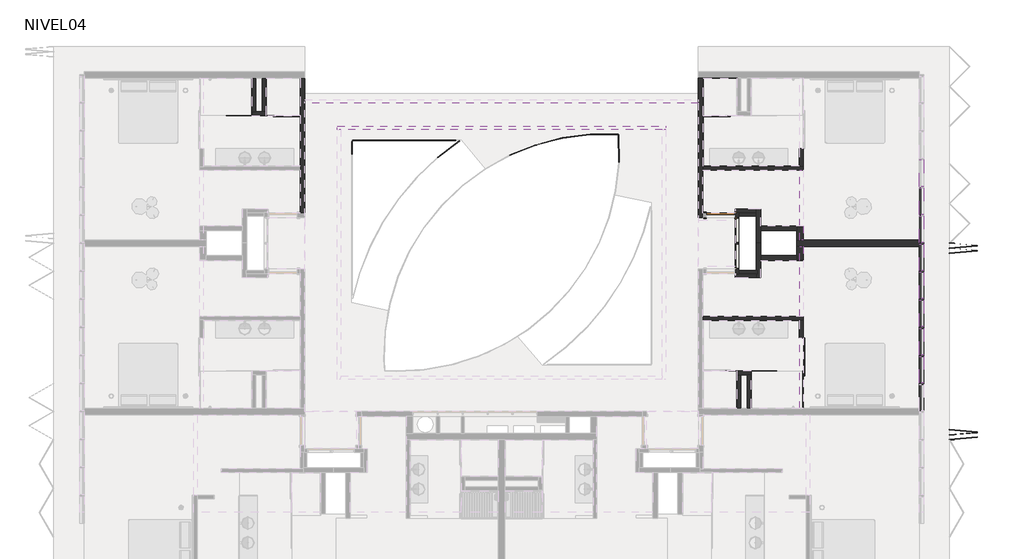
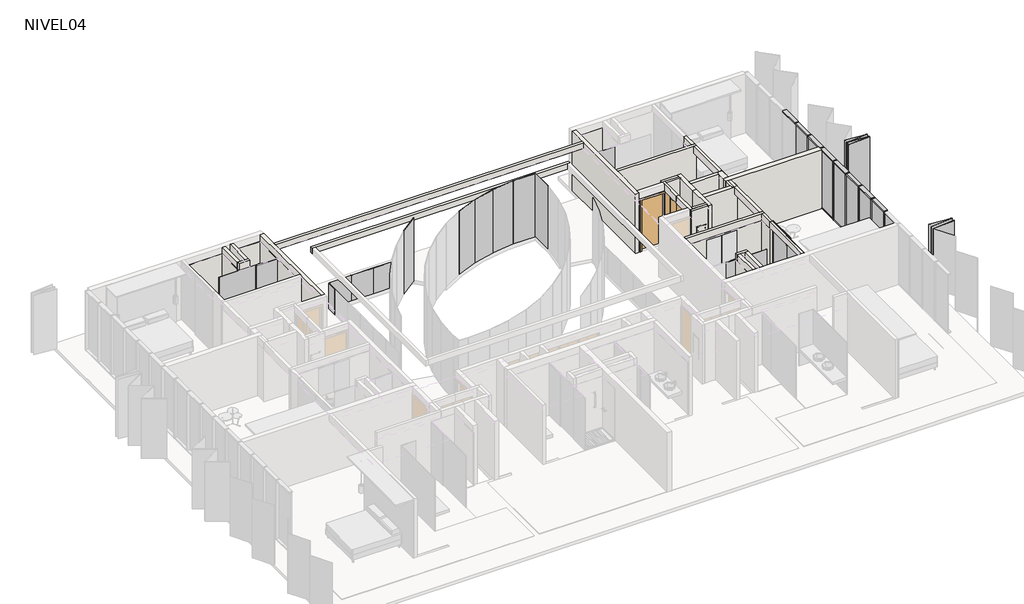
# One storey, part 6 of 8: 43 walls, 26 plates, 20 members, 3 doors.
"""IFC4 building model written with IfcOpenShell, lengths in millimetres."""

from ifc_helpers import new_model, si_unit, frame, origin, place, context, project, spatial, polyline, outline, extrude, faceted_brep, transform, mapped, element, save
from components import m_single_flush_910x_224_d199ccfa, puerta_closet_shaft_82_5_x_224cm_10222c01, puerta_closet_shaft_82_5_x_224cm_6ba6ac82, rectangular_mullion_50_x_150mm_324a6438, rectangular_mullion_50_x_150mm_33c2bde1, folding_hd_folding_hd_85_1d048bdd, panel_corredera_cr_panel_corredera_1cb9417a, panel_corredera_cr_panel_corredera_99e605cf, panel_corredera_cr_panel_corredera_8db39db7, system_panel_5ccbd7a3, system_panel_34dc83f9, system_panel_bb99d6db, system_panel_8f9a12f6, system_panel_d16f8cfc, system_panel_cr_shower_402713e2, system_panel_cr_shower_685ec66b, system_panel_glazed_6ccc6dc1

model = new_model("IFC4")

# Units and contexts
model_context = context("Model", 3, world=origin())
ifc_project = project(units=[si_unit("LENGTHUNIT", "METRE", prefix="MILLI")], contexts=[model_context])

# Site, building, storey
site = spatial("IfcSite", under=ifc_project)
building = spatial("IfcBuilding", under=site)
storey = spatial("IfcBuildingStorey", under=building, Name="NIVEL04", Elevation=7940.0)

# Doors
placement = place(None, origin())
m_single_flush_910x_224_shape = m_single_flush_910x_224_d199ccfa(model_context)
element("IfcDoor", 1, ObjectType="M_Single-Flush : 910x 224", at=placement, inside=storey, context=model_context, shape_type="MappedRepresentation", body=[
    mapped(m_single_flush_910x_224_shape, transform((-176.0934748, 6033.9139241, 7940.0), x_axis=(-1.0, 0.0, 0.0), y_axis=(0.0, -1.0, 0.0), z_axis=(0.0, 0.0, 1.0))),
])
puerta_closet_shaft_82_5_x_224cm_shape = puerta_closet_shaft_82_5_x_224cm_10222c01(model_context)
element("IfcDoor", 2, ObjectType="PUERTA CLOSET SHAFT : 82.5 x 224cm", at=placement, inside=storey, context=model_context, shape_type="MappedRepresentation", body=[
    mapped(puerta_closet_shaft_82_5_x_224cm_shape, transform((361.4065252, 5862.9454949, 7940.0), x_axis=(0.0, 1.0, 0.0), y_axis=(-1.0, 0.0, 0.0), z_axis=(0.0, 0.0, 1.0))),
])
puerta_closet_shaft_82_5_x_224cm_2_shape = puerta_closet_shaft_82_5_x_224cm_6ba6ac82(model_context)
element("IfcDoor", 3, ObjectType="PUERTA CLOSET SHAFT : 82.5 x 224cm", at=placement, inside=storey, context=model_context, shape_type="MappedRepresentation", body=[
    mapped(puerta_closet_shaft_82_5_x_224cm_2_shape, transform((361.4065252, 4404.8823532, 7940.0), x_axis=(0.0, -1.0, 0.0), y_axis=(1.0, 0.0, 0.0), z_axis=(0.0, 0.0, 1.0))),
])

# Members
rectangular_mullion_50_x_150mm_shape = rectangular_mullion_50_x_150mm_324a6438(model_context)
element("IfcMember", 4, ObjectType="Rectangular Mullion : 50 x 150mm", at=placement, inside=storey, context=model_context, shape_type="MappedRepresentation", body=[
    mapped(rectangular_mullion_50_x_150mm_shape, transform((6266.4065252, 6958.9139237, 10490.0), x_axis=(0.0, 0.0, 1.0), y_axis=(-1.0, 0.0, 0.0), z_axis=(0.0, -1.0, 0.0))),
])
element("IfcMember", 5, ObjectType="Rectangular Mullion : 50 x 150mm", at=placement, inside=storey, context=model_context, shape_type="MappedRepresentation", body=[
    mapped(rectangular_mullion_50_x_150mm_shape, transform((6266.4065252, 6058.9139237, 10490.0), x_axis=(0.0, 0.0, 1.0), y_axis=(-1.0, 0.0, 0.0), z_axis=(0.0, -1.0, 0.0))),
])
element("IfcMember", 6, ObjectType="Rectangular Mullion : 50 x 150mm", at=placement, inside=storey, context=model_context, shape_type="MappedRepresentation", body=[
    mapped(rectangular_mullion_50_x_150mm_shape, transform((6266.4065252, 5158.9139237, 10490.0), x_axis=(0.0, 0.0, 1.0), y_axis=(-1.0, 0.0, 0.0), z_axis=(0.0, -1.0, 0.0))),
])
element("IfcMember", 7, ObjectType="Rectangular Mullion : 50 x 150mm", at=placement, inside=storey, context=model_context, shape_type="MappedRepresentation", body=[
    mapped(rectangular_mullion_50_x_150mm_shape, transform((6266.4065252, 4258.9139237, 10490.0), x_axis=(0.0, 0.0, 1.0), y_axis=(-1.0, 0.0, 0.0), z_axis=(0.0, -1.0, 0.0))),
])
element("IfcMember", 8, ObjectType="Rectangular Mullion : 50 x 150mm", at=placement, inside=storey, context=model_context, shape_type="MappedRepresentation", body=[
    mapped(rectangular_mullion_50_x_150mm_shape, transform((6266.4065252, 3358.9139237, 10490.0), x_axis=(0.0, 0.0, 1.0), y_axis=(-1.0, 0.0, 0.0), z_axis=(0.0, -1.0, 0.0))),
])
element("IfcMember", 9, ObjectType="Rectangular Mullion : 50 x 150mm", at=placement, inside=storey, context=model_context, shape_type="MappedRepresentation", body=[
    mapped(rectangular_mullion_50_x_150mm_shape, transform((6266.4065252, 2458.9139237, 10490.0), x_axis=(0.0, 0.0, 1.0), y_axis=(-1.0, 0.0, 0.0), z_axis=(0.0, -1.0, 0.0))),
])
element("IfcMember", 10, ObjectType="Rectangular Mullion : 50 x 150mm", at=placement, inside=storey, context=model_context, shape_type="MappedRepresentation", body=[
    mapped(rectangular_mullion_50_x_150mm_shape, transform((6266.4065252, 1558.9139237, 10490.0), x_axis=(0.0, 0.0, 1.0), y_axis=(-1.0, 0.0, 0.0), z_axis=(0.0, -1.0, 0.0))),
])
element("IfcMember", 11, ObjectType="Rectangular Mullion : 50 x 150mm", at=placement, inside=storey, context=model_context, shape_type="MappedRepresentation", body=[
    mapped(rectangular_mullion_50_x_150mm_shape, transform((6266.4065252, 658.9139237, 10490.0), x_axis=(0.0, 0.0, 1.0), y_axis=(-1.0, 0.0, 0.0), z_axis=(0.0, -1.0, 0.0))),
])
element("IfcMember", 12, ObjectType="Rectangular Mullion : 50 x 150mm", at=placement, inside=storey, context=model_context, shape_type="MappedRepresentation", body=[
    mapped(rectangular_mullion_50_x_150mm_shape, transform((6266.4065252, 5108.9139237, 7920.0), x_axis=(0.0, 0.0, -1.0), y_axis=(-1.0, 0.0, 0.0), z_axis=(0.0, 1.0, 0.0))),
])
element("IfcMember", 13, ObjectType="Rectangular Mullion : 50 x 150mm", at=placement, inside=storey, context=model_context, shape_type="MappedRepresentation", body=[
    mapped(rectangular_mullion_50_x_150mm_shape, transform((6266.4065252, 4208.9139237, 7920.0), x_axis=(0.0, 0.0, -1.0), y_axis=(-1.0, 0.0, 0.0), z_axis=(0.0, 1.0, 0.0))),
])
element("IfcMember", 14, ObjectType="Rectangular Mullion : 50 x 150mm", at=placement, inside=storey, context=model_context, shape_type="MappedRepresentation", body=[
    mapped(rectangular_mullion_50_x_150mm_shape, transform((6266.4065252, 3308.9139237, 7920.0), x_axis=(0.0, 0.0, -1.0), y_axis=(-1.0, 0.0, 0.0), z_axis=(0.0, 1.0, 0.0))),
])
element("IfcMember", 15, ObjectType="Rectangular Mullion : 50 x 150mm", at=placement, inside=storey, context=model_context, shape_type="MappedRepresentation", body=[
    mapped(rectangular_mullion_50_x_150mm_shape, transform((6266.4065252, 2408.9139237, 7920.0), x_axis=(0.0, 0.0, -1.0), y_axis=(-1.0, 0.0, 0.0), z_axis=(0.0, 1.0, 0.0))),
])
element("IfcMember", 16, ObjectType="Rectangular Mullion : 50 x 150mm", at=placement, inside=storey, context=model_context, shape_type="MappedRepresentation", body=[
    mapped(rectangular_mullion_50_x_150mm_shape, transform((6266.4065252, 1508.9139237, 7920.0), x_axis=(0.0, 0.0, -1.0), y_axis=(-1.0, 0.0, 0.0), z_axis=(0.0, 1.0, 0.0))),
])
element("IfcMember", 17, ObjectType="Rectangular Mullion : 50 x 150mm", at=placement, inside=storey, context=model_context, shape_type="MappedRepresentation", body=[
    mapped(rectangular_mullion_50_x_150mm_shape, transform((6266.4065252, 608.9139237, 7920.0), x_axis=(0.0, 0.0, -1.0), y_axis=(-1.0, 0.0, 0.0), z_axis=(0.0, 1.0, 0.0))),
])
rectangular_mullion_50_x_150mm_2_shape = rectangular_mullion_50_x_150mm_33c2bde1(model_context)
element("IfcMember", 18, ObjectType="Rectangular Mullion : 50 x 150mm", at=placement, inside=storey, context=model_context, shape_type="MappedRepresentation", body=[
    mapped(rectangular_mullion_50_x_150mm_2_shape, transform((6266.4065252, 5133.9139237, 7920.0), x_axis=(0.0, -1.0, 0.0), y_axis=(-1.0, 0.0, 0.0), z_axis=(0.0, 0.0, -1.0))),
])
element("IfcMember", 19, ObjectType="Rectangular Mullion : 50 x 150mm", at=placement, inside=storey, context=model_context, shape_type="MappedRepresentation", body=[
    mapped(rectangular_mullion_50_x_150mm_2_shape, transform((6266.4065252, 4233.9139237, 7920.0), x_axis=(0.0, -1.0, 0.0), y_axis=(-1.0, 0.0, 0.0), z_axis=(0.0, 0.0, -1.0))),
])
element("IfcMember", 20, ObjectType="Rectangular Mullion : 50 x 150mm", at=placement, inside=storey, context=model_context, shape_type="MappedRepresentation", body=[
    mapped(rectangular_mullion_50_x_150mm_2_shape, transform((6266.4065252, 3333.9139237, 7920.0), x_axis=(0.0, -1.0, 0.0), y_axis=(-1.0, 0.0, 0.0), z_axis=(0.0, 0.0, -1.0))),
])
element("IfcMember", 21, ObjectType="Rectangular Mullion : 50 x 150mm", at=placement, inside=storey, context=model_context, shape_type="MappedRepresentation", body=[
    mapped(rectangular_mullion_50_x_150mm_2_shape, transform((6266.4065252, 2433.9139237, 7920.0), x_axis=(0.0, -1.0, 0.0), y_axis=(-1.0, 0.0, 0.0), z_axis=(0.0, 0.0, -1.0))),
])
element("IfcMember", 22, ObjectType="Rectangular Mullion : 50 x 150mm", at=placement, inside=storey, context=model_context, shape_type="MappedRepresentation", body=[
    mapped(rectangular_mullion_50_x_150mm_2_shape, transform((6266.4065252, 1533.9139237, 7920.0), x_axis=(0.0, -1.0, 0.0), y_axis=(-1.0, 0.0, 0.0), z_axis=(0.0, 0.0, -1.0))),
])
element("IfcMember", 23, ObjectType="Rectangular Mullion : 50 x 150mm", at=placement, inside=storey, context=model_context, shape_type="MappedRepresentation", body=[
    mapped(rectangular_mullion_50_x_150mm_2_shape, transform((6266.4065252, 633.9139237, 7920.0), x_axis=(0.0, -1.0, 0.0), y_axis=(-1.0, 0.0, 0.0), z_axis=(0.0, 0.0, -1.0))),
])

# Plates
folding_hd_folding_hd_85_shape = folding_hd_folding_hd_85_1d048bdd(model_context)
element("IfcPlate", 24, ObjectType="FOLDING HD : FOLDING HD 85", at=placement, inside=storey, context=model_context, shape_type="MappedRepresentation", body=[
    mapped(folding_hd_folding_hd_85_shape, transform((7166.4065252, 1983.9139241, 7920.0), x_axis=(0.0, -1.0, 0.0), y_axis=(1.0, 0.0, 0.0), z_axis=(0.0, 0.0, 1.0))),
])
panel_corredera_cr_panel_corredera_shape = panel_corredera_cr_panel_corredera_1cb9417a(model_context)
element("IfcPlate", 25, ObjectType="PANEL CORREDERA : CR_PANEL CORREDERA", at=placement, inside=storey, context=model_context, shape_type="MappedRepresentation", body=[
    mapped(panel_corredera_cr_panel_corredera_shape, transform((-372.2601415, 9233.9139241, 7940.0), x_axis=(1.0, 0.0, 0.0), y_axis=(0.0, 1.0, 0.0), z_axis=(0.0, 0.0, 1.0))),
])
panel_corredera_cr_panel_corredera_2_shape = panel_corredera_cr_panel_corredera_99e605cf(model_context)
element("IfcPlate", 26, ObjectType="PANEL CORREDERA : CR_PANEL CORREDERA", at=placement, inside=storey, context=model_context, shape_type="MappedRepresentation", body=[
    mapped(panel_corredera_cr_panel_corredera_2_shape, transform((-13994.9268082, 9233.9139241, 7940.0), x_axis=(-1.0, 0.0, 0.0), y_axis=(0.0, -1.0, 0.0), z_axis=(0.0, 0.0, 1.0))),
])
panel_corredera_cr_panel_corredera_3_shape = panel_corredera_cr_panel_corredera_8db39db7(model_context)
element("IfcPlate", 27, ObjectType="PANEL CORREDERA : CR_PANEL CORREDERA", at=placement, inside=storey, context=model_context, shape_type="MappedRepresentation", body=[
    mapped(panel_corredera_cr_panel_corredera_3_shape, transform((2481.4065252, 1563.9139241, 7940.0), x_axis=(0.0, -1.0, 0.0), y_axis=(1.0, 0.0, 0.0), z_axis=(0.0, 0.0, 1.0))),
])
system_panel_shape = system_panel_5ccbd7a3(model_context)
element("IfcPlate", 28, ObjectType="System Panel : CR-BARANDA", at=placement, inside=storey, context=model_context, shape_type="MappedRepresentation", body=[
    mapped(system_panel_shape, transform((-11507.3434747, 8433.9139241, 7940.0), x_axis=(1.0, 0.0, 0.0), y_axis=(0.0, 1.0, 0.0), z_axis=(0.0, 0.0, 1.0))),
])
element("IfcPlate", 29, ObjectType="System Panel : CR-BARANDA", at=placement, inside=storey, context=model_context, shape_type="MappedRepresentation", body=[
    mapped(system_panel_shape, transform((-10607.3434745, 8433.9139241, 7940.0), x_axis=(1.0, 0.0, 0.0), y_axis=(0.0, 1.0, 0.0), z_axis=(0.0, 0.0, 1.0))),
])
element("IfcPlate", 30, ObjectType="System Panel : CR-BARANDA", at=placement, inside=storey, context=model_context, shape_type="MappedRepresentation", body=[
    mapped(system_panel_shape, transform((-9707.3434745, 8433.9139241, 7940.0), x_axis=(1.0, 0.0, 0.0), y_axis=(0.0, 1.0, 0.0), z_axis=(0.0, 0.0, 1.0))),
])
system_panel_2_shape = system_panel_34dc83f9(model_context)
element("IfcPlate", 31, ObjectType="System Panel : CR-BARANDA", at=placement, inside=storey, context=model_context, shape_type="MappedRepresentation", body=[
    mapped(system_panel_2_shape, transform((-8954.8434747, 8433.9139241, 7940.0), x_axis=(1.0, 0.0, 0.0), y_axis=(0.0, 1.0, 0.0), z_axis=(0.0, 0.0, 1.0))),
])
system_panel_3_shape = system_panel_bb99d6db(model_context)
element("IfcPlate", 32, ObjectType="System Panel : CR-BARANDA", at=placement, inside=storey, context=model_context, shape_type="MappedRepresentation", body=[
    mapped(system_panel_3_shape, transform((-11983.5934748, 8189.0707631, 7940.0), x_axis=(0.0, 1.0, 0.0), y_axis=(-1.0, 0.0, 0.0), z_axis=(0.0, 0.0, 1.0))),
])
system_panel_4_shape = system_panel_8f9a12f6(model_context)
element("IfcPlate", 33, ObjectType="System Panel : CR-BARANDA", at=placement, inside=storey, context=model_context, shape_type="MappedRepresentation", body=[
    mapped(system_panel_4_shape, transform((-3889.1158289, 8621.3139577, 7940.0), x_axis=(-0.9999985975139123, 0.0016748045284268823, 0.0), y_axis=(-0.0016748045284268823, -0.9999985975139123, 0.0), z_axis=(0.0, 0.0, 1.0))),
])
system_panel_5_shape = system_panel_d16f8cfc(model_context)
element("IfcPlate", 34, ObjectType="System Panel : CR-BARANDA", at=placement, inside=storey, context=model_context, shape_type="MappedRepresentation", body=[
    mapped(system_panel_5_shape, transform((-4785.5416487, 8565.4687941, 7940.0), x_axis=(-0.9920587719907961, -0.12577516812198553, 0.0), y_axis=(0.12577516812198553, -0.9920587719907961, 0.0), z_axis=(0.0, 0.0, 1.0))),
])
element("IfcPlate", 35, ObjectType="System Panel : CR-BARANDA", at=placement, inside=storey, context=model_context, shape_type="MappedRepresentation", body=[
    mapped(system_panel_5_shape, transform((-5667.541953, 8395.8415861, 7940.0), x_axis=(-0.9679419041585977, -0.2511741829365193, 0.0), y_axis=(0.2511741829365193, -0.9679419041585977, 0.0), z_axis=(0.0, 0.0, 1.0))),
])
element("IfcPlate", 36, ObjectType="System Panel : CR-BARANDA", at=placement, inside=storey, context=model_context, shape_type="MappedRepresentation", body=[
    mapped(system_panel_5_shape, transform((-6520.7343753, 8115.1983662, 7940.0), x_axis=(-0.9280412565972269, -0.37247741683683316, 0.0), y_axis=(0.37247741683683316, -0.9280412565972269, 0.0), z_axis=(0.0, 0.0, 1.0))),
])
element("IfcPlate", 37, ObjectType="System Panel : CR-BARANDA", at=placement, inside=storey, context=model_context, shape_type="MappedRepresentation", body=[
    mapped(system_panel_4_shape, transform((-8888.7580194, 8141.1767332, 7940.0), x_axis=(-0.7957364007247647, -0.6056431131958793, 0.0), y_axis=(0.6056431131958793, -0.7957364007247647, 0.0), z_axis=(0.0, 0.0, 1.0))),
])
element("IfcPlate", 38, ObjectType="System Panel : CR-BARANDA", at=placement, inside=storey, context=model_context, shape_type="MappedRepresentation", body=[
    mapped(system_panel_4_shape, transform((-3433.3235969, 8170.5975795, 7940.0), x_axis=(0.012873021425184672, -0.9999171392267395, 0.0), y_axis=(0.9999171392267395, 0.012873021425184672, 0.0), z_axis=(0.0, 0.0, 1.0))),
])
system_panel_cr_shower_shape = system_panel_cr_shower_402713e2(model_context)
element("IfcPlate", 39, ObjectType="System Panel : CR-SHOWER", at=placement, inside=storey, context=model_context, shape_type="MappedRepresentation", body=[
    mapped(system_panel_cr_shower_shape, transform((-15178.9268082, 9233.9139241, 7940.0), x_axis=(1.0, 0.0, 0.0), y_axis=(0.0, 1.0, 0.0), z_axis=(0.0, 0.0, 1.0))),
])
element("IfcPlate", 40, ObjectType="System Panel : CR-SHOWER", at=placement, inside=storey, context=model_context, shape_type="MappedRepresentation", body=[
    mapped(system_panel_cr_shower_shape, transform((811.7398585, 1033.9139241, 7940.0), x_axis=(-1.0, 0.0, 0.0), y_axis=(0.0, -1.0, 0.0), z_axis=(0.0, 0.0, 1.0))),
])
system_panel_cr_shower_2_shape = system_panel_cr_shower_685ec66b(model_context)
element("IfcPlate", 41, ObjectType="System Panel : CR-SHOWER", at=placement, inside=storey, context=model_context, shape_type="MappedRepresentation", body=[
    mapped(system_panel_cr_shower_2_shape, transform((2481.4065252, 433.9139241, 7940.0), x_axis=(0.0, -1.0, 0.0), y_axis=(1.0, 0.0, 0.0), z_axis=(0.0, 0.0, 1.0))),
])
system_panel_glazed_shape = system_panel_glazed_6ccc6dc1(model_context)
element("IfcPlate", 42, ObjectType="System Panel : Glazed", at=placement, inside=storey, context=model_context, shape_type="MappedRepresentation", body=[
    mapped(system_panel_glazed_shape, transform((6266.4065252, 6483.9139237, 7970.0), x_axis=(0.0, -1.0, 0.0), y_axis=(1.0, 0.0, 0.0), z_axis=(0.0, 0.0, 1.0))),
])
element("IfcPlate", 43, ObjectType="System Panel : Glazed", at=placement, inside=storey, context=model_context, shape_type="MappedRepresentation", body=[
    mapped(system_panel_glazed_shape, transform((6266.4065252, 5583.9139237, 7970.0), x_axis=(0.0, -1.0, 0.0), y_axis=(1.0, 0.0, 0.0), z_axis=(0.0, 0.0, 1.0))),
])
element("IfcPlate", 44, ObjectType="System Panel : Glazed", at=placement, inside=storey, context=model_context, shape_type="MappedRepresentation", body=[
    mapped(system_panel_glazed_shape, transform((6266.4065252, 4683.9139237, 7970.0), x_axis=(0.0, -1.0, 0.0), y_axis=(1.0, 0.0, 0.0), z_axis=(0.0, 0.0, 1.0))),
])
element("IfcPlate", 45, ObjectType="System Panel : Glazed", at=placement, inside=storey, context=model_context, shape_type="MappedRepresentation", body=[
    mapped(system_panel_glazed_shape, transform((6266.4065252, 3783.9139237, 7970.0), x_axis=(0.0, -1.0, 0.0), y_axis=(1.0, 0.0, 0.0), z_axis=(0.0, 0.0, 1.0))),
])
element("IfcPlate", 46, ObjectType="System Panel : Glazed", at=placement, inside=storey, context=model_context, shape_type="MappedRepresentation", body=[
    mapped(system_panel_glazed_shape, transform((6266.4065252, 2883.9139237, 7970.0), x_axis=(0.0, -1.0, 0.0), y_axis=(1.0, 0.0, 0.0), z_axis=(0.0, 0.0, 1.0))),
])
element("IfcPlate", 47, ObjectType="System Panel : Glazed", at=placement, inside=storey, context=model_context, shape_type="MappedRepresentation", body=[
    mapped(system_panel_glazed_shape, transform((6266.4065252, 1983.9139237, 7970.0), x_axis=(0.0, -1.0, 0.0), y_axis=(1.0, 0.0, 0.0), z_axis=(0.0, 0.0, 1.0))),
])
element("IfcPlate", 48, ObjectType="System Panel : Glazed", at=placement, inside=storey, context=model_context, shape_type="MappedRepresentation", body=[
    mapped(system_panel_glazed_shape, transform((6266.4065252, 1083.9139237, 7970.0), x_axis=(0.0, -1.0, 0.0), y_axis=(1.0, 0.0, 0.0), z_axis=(0.0, 0.0, 1.0))),
])
element("IfcPlate", 49, ObjectType="System Panel : Glazed", at=placement, inside=storey, context=model_context, shape_type="MappedRepresentation", body=[
    mapped(system_panel_glazed_shape, transform((6266.4065252, 183.9139237, 7970.0), x_axis=(0.0, -1.0, 0.0), y_axis=(1.0, 0.0, 0.0), z_axis=(0.0, 0.0, 1.0))),
])

# Walls
element("IfcWall", 50, ObjectType="SCV.TI.A.120.120.122.46.2", at=placement, inside=storey, context=model_context, shape_type="SweptSolid", body=[
    extrude(outline(polyline([(-15173.5934748, 9353.9139241), (-15173.5934748, 10433.9139241), (-15053.5934748, 10433.9139241), (-15053.5934748, 9353.9139241), (-15173.5934748, 9353.9139241)])), frame((0.0, 0.0, 7920.0), z_axis=(0.0, 0.0, 1.0), x_axis=(1.0, 0.0, 0.0)), (0.0, 0.0, 1.0), 2570.0),
])
element("IfcWall", 51, ObjectType="SCV.TI.A.120.120.122.46.2", at=placement, inside=storey, context=model_context, shape_type="Brep", body=[
    faceted_brep([(-15173.5934748, 9233.9139241, 7920.0), (-14733.5934748, 9233.9139241, 7920.0), (-14733.5934748, 9233.9139241, 10490.0), (-15173.5934748, 9233.9139241, 10490.0), (-15173.5934748, 9353.9139241, 7920.0), (-15173.5934748, 9353.9139241, 10490.0), (-15053.5934748, 9353.9139241, 10490.0), (-14853.5934748, 9353.9139241, 10490.0), (-14733.5934748, 9353.9139241, 10490.0), (-14733.5934748, 9353.9139241, 7920.0), (-14853.5934748, 9353.9139241, 7920.0), (-15053.5934748, 9353.9139241, 7920.0)], [[[0, 1, 2, 3]], [[4, 5, 6, 7, 8, 9, 10, 11]], [[1, 0, 4, 11, 10, 9]], [[3, 2, 8, 7, 6, 5]], [[2, 1, 9, 8]], [[0, 3, 5, 4]]]),
])
element("IfcWall", 52, ObjectType="SCV.TI.A.120.120.122.46.2", at=placement, inside=storey, context=model_context, shape_type="SweptSolid", body=[
    extrude(outline(polyline([(-14733.5934748, 10433.9139241), (-14733.5934748, 9353.9139241), (-14853.5934748, 9353.9139241), (-14853.5934748, 10433.9139241), (-14733.5934748, 10433.9139241)])), frame((0.0, 0.0, 7920.0), z_axis=(0.0, 0.0, 1.0), x_axis=(1.0, 0.0, 0.0)), (0.0, 0.0, 1.0), 2570.0),
])
element("IfcWall", 53, ObjectType="REV-PORCELANATO_60*60", at=placement, inside=storey, context=model_context, shape_type="Brep", body=[
    faceted_brep([(-13633.5934748, 7603.9139241, 7960.0), (-13633.5934748, 10433.9139241, 7960.0), (-13633.5934748, 10433.9139241, 10200.0), (-13633.5934748, 7603.9139241, 10200.0), (-13643.5934748, 7603.9139241, 7960.0), (-13643.5934748, 7603.9139241, 10200.0), (-13643.5934748, 10423.9139241, 10200.0), (-13643.5934748, 10433.9139241, 10200.0), (-13643.5934748, 10433.9139241, 7960.0), (-13643.5934748, 10423.9139241, 7960.0)], [[[0, 1, 2, 3]], [[4, 5, 6, 7, 8, 9]], [[1, 0, 4, 9, 8]], [[3, 2, 7, 6, 5]], [[2, 1, 8, 7]], [[0, 3, 5, 4]]]),
])
element("IfcWall", 54, ObjectType="REV-PORCELANATO_60*60", at=placement, inside=storey, context=model_context, shape_type="Brep", body=[
    faceted_brep([(-13643.5934748, 10433.9139241, 7960.0), (-14733.5934748, 10433.9139241, 7960.0), (-14733.5934748, 10433.9139241, 10200.0), (-13643.5934748, 10433.9139241, 10200.0), (-13643.5934748, 10423.9139241, 7960.0), (-13643.5934748, 10423.9139241, 10200.0), (-14723.5934748, 10423.9139241, 10200.0), (-14733.5934748, 10423.9139241, 10200.0), (-14733.5934748, 10423.9139241, 7960.0), (-14723.5934748, 10423.9139241, 7960.0)], [[[0, 1, 2, 3]], [[4, 5, 6, 7, 8, 9]], [[1, 0, 4, 9, 8]], [[3, 2, 7, 6, 5]], [[2, 1, 8, 7]], [[0, 3, 5, 4]]]),
])
element("IfcWall", 55, ObjectType="REV-PORCELANATO_60*60", at=placement, inside=storey, context=model_context, shape_type="SweptSolid", body=[
    extrude(outline(polyline([(-14723.5934748, 10423.9139241), (-14723.5934748, 9233.9139241), (-14733.5934748, 9233.9139241), (-14733.5934748, 10423.9139241), (-14723.5934748, 10423.9139241)])), frame((0.0, 0.0, 7960.0), z_axis=(0.0, 0.0, 1.0), x_axis=(1.0, 0.0, 0.0)), (0.0, 0.0, 1.0), 2240.0),
])
element("IfcWall", 56, ObjectType="REV-PORCELANATO_60*60", at=placement, inside=storey, context=model_context, shape_type="Brep", body=[
    faceted_brep([(-15173.5934748, 9233.9139241, 7940.0), (-15173.5934748, 10433.9139241, 7940.0), (-15173.5934748, 10433.9139241, 10200.0), (-15173.5934748, 9233.9139241, 10200.0), (-15183.5934748, 9233.9139241, 7940.0), (-15183.5934748, 9233.9139241, 10200.0), (-15183.5934748, 10423.9139241, 10200.0), (-15183.5934748, 10433.9139241, 10200.0), (-15183.5934748, 10433.9139241, 7940.0), (-15183.5934748, 10423.9139241, 7940.0)], [[[0, 1, 2, 3]], [[4, 5, 6, 7, 8, 9]], [[1, 0, 4, 9, 8]], [[3, 2, 7, 6, 5]], [[0, 3, 5, 4]], [[2, 1, 8, 7]]]),
])
element("IfcWall", 57, ObjectType="REV-PORCELANATO_60*60", at=placement, inside=storey, context=model_context, shape_type="SweptSolid", body=[
    extrude(outline(polyline([(-16793.5934748, 10433.9139241), (-15183.5934748, 10433.9139241), (-15183.5934748, 10423.9139241), (-16793.5934748, 10423.9139241), (-16793.5934748, 10433.9139241)])), frame((0.0, 0.0, 7940.0), z_axis=(0.0, 0.0, 1.0), x_axis=(1.0, 0.0, 0.0)), (0.0, 0.0, 1.0), 2260.0),
])
element("IfcWall", 58, ObjectType="SCV.TI.A.150.120.212.47.1", at=placement, inside=storey, context=model_context, shape_type="Brep", body=[
    faceted_brep([(-13483.5934748, 6108.9139241, 7920.0), (-13483.5934748, 10433.9139241, 7920.0), (-13483.5934748, 10433.9139241, 10490.0), (-13483.5934748, 9733.9139241, 10490.0), (-13483.5934748, 9623.9139241, 10490.0), (-13483.5934748, 6108.9139241, 10490.0), (-13633.5934748, 6108.9139241, 7920.0), (-13633.5934748, 6108.9139241, 10490.0), (-13633.5934748, 7483.9139241, 10490.0), (-13633.5934748, 7593.9139241, 10490.0), (-13633.5934748, 10433.9139241, 10490.0), (-13633.5934748, 10433.9139241, 7920.0), (-13633.5934748, 7593.9139241, 7920.0), (-13633.5934748, 7483.9139241, 7920.0)], [[[0, 1, 2, 3, 4, 5]], [[6, 7, 8, 9, 10, 11, 12, 13]], [[1, 0, 6, 13, 12, 11]], [[5, 4, 3, 2, 10, 9, 8, 7]], [[2, 1, 11, 10]], [[0, 5, 7, 6]]]),
])
element("IfcWall", 59, ObjectType="SCV.TI.A.150.120.212.47.1", at=placement, inside=storey, context=model_context, shape_type="Brep", body=[
    faceted_brep([(-733.5934748, 5958.9139241, 7920.0), (-733.5934748, 6108.9139241, 7920.0), (-733.5934748, 7483.9139241, 7920.0), (-733.5934748, 7593.9139241, 7920.0), (-733.5934748, 10433.9139241, 7920.0), (-733.5934748, 10433.9139241, 10490.0), (-733.5934748, 7593.9139241, 10490.0), (-733.5934748, 7483.9139241, 10490.0), (-733.5934748, 6108.9139241, 10490.0), (-733.5934748, 5958.9139241, 10490.0), (-883.5934748, 5958.9139241, 7920.0), (-883.5934748, 5958.9139241, 10490.0), (-883.5934748, 9623.9139241, 10490.0), (-883.5934748, 9733.9139241, 10490.0), (-883.5934748, 10433.9139241, 10490.0), (-883.5934748, 10433.9139241, 7920.0)], [[[0, 1, 2, 3, 4, 5, 6, 7, 8, 9]], [[10, 11, 12, 13, 14, 15]], [[4, 3, 2, 1, 0, 10, 15]], [[9, 8, 7, 6, 5, 14, 13, 12, 11]], [[0, 9, 11, 10]], [[5, 4, 15, 14]]]),
])
element("IfcWall", 60, ObjectType="SCV.TI.A.110.090.143.47.1 2", at=placement, inside=storey, context=model_context, shape_type="Brep", body=[
    faceted_brep([(-12443.5934748, 8893.9139241, 10490.0), (-1923.5934748, 8893.9139241, 10490.0), (-1923.5934748, 8893.9139241, 10245.0), (-12443.5934748, 8893.9139241, 10245.0), (-1923.5934748, 8783.9139241, 10490.0), (-2033.5934748, 8783.9139241, 10490.0), (-12333.5934748, 8783.9139241, 10490.0), (-12443.5934748, 8783.9139241, 10490.0), (-12443.5934748, 8783.9139241, 10245.0), (-12333.5934748, 8783.9139241, 10245.0), (-2033.5934748, 8783.9139241, 10245.0), (-1923.5934748, 8783.9139241, 10245.0)], [[[0, 1, 2, 3]], [[4, 5, 6, 7, 8, 9, 10, 11]], [[1, 0, 7, 6, 5, 4]], [[7, 0, 3, 8]], [[1, 4, 11, 2]], [[3, 2, 11, 10, 9, 8]]]),
])
element("IfcWall", 61, ObjectType="SCV.TI.A.110.090.143.47.1 2", at=placement, inside=storey, context=model_context, shape_type="SweptSolid", body=[
    extrude(outline(polyline([(-13483.5934748, 9733.9139241), (-883.5934748, 9733.9139241), (-883.5934748, 9623.9139241), (-13483.5934748, 9623.9139241), (-13483.5934748, 9733.9139241)])), frame((0.0, 0.0, 10245.0), z_axis=(0.0, 0.0, 1.0), x_axis=(1.0, 0.0, 0.0)), (0.0, 0.0, 1.0), 245.0),
])
element("IfcWall", 62, ObjectType="SCV.TI.A.110.090.143.47.1", at=placement, inside=storey, context=model_context, shape_type="Brep", body=[
    faceted_brep([(306.4065252, 6123.9139241, 7920.0), (306.4065252, 6108.9139241, 7920.0), (306.4065252, 5958.9139241, 7920.0), (306.4065252, 5128.3504322, 7920.0), (306.4065252, 5128.3504322, 7940.0), (306.4065252, 5958.9139241, 7940.0), (306.4065252, 5958.9139241, 10180.0), (306.4065252, 5128.3504322, 10180.0), (306.4065252, 5128.3504322, 10490.0), (306.4065252, 5958.9139241, 10490.0), (306.4065252, 6108.9139241, 10490.0), (306.4065252, 6123.9139241, 10490.0), (416.4065252, 5128.3504322, 7920.0), (416.4065252, 6013.9139241, 7920.0), (416.4065252, 6123.9139241, 7920.0), (416.4065252, 6123.9139241, 10490.0), (416.4065252, 6013.9139241, 10490.0), (416.4065252, 5128.3504322, 10490.0), (416.4065252, 5128.3504322, 10180.0), (416.4065252, 5958.9139241, 10180.0), (416.4065252, 5958.9139241, 7940.0), (416.4065252, 5128.3504322, 7940.0)], [[[0, 1, 2, 3, 4, 5, 6, 7, 8, 9, 10, 11]], [[12, 13, 14, 15, 16, 17, 18, 19, 20, 21]], [[3, 2, 1, 0, 14, 13, 12]], [[17, 8, 7, 18]], [[3, 12, 21, 4]], [[11, 10, 9, 8, 17, 16, 15]], [[6, 19, 18, 7]], [[20, 5, 4, 21]], [[5, 20, 19, 6]], [[0, 11, 15, 14]]]),
])
element("IfcWall", 63, ObjectType="SCV.TI.A.110.090.143.47.1", at=placement, inside=storey, context=model_context, shape_type="Brep", body=[
    faceted_brep([(-733.5934748, 7483.9139241, 7920.0), (2481.4065252, 7483.9139241, 7920.0), (2481.4065252, 7483.9139241, 10190.0), (2481.4065252, 7483.9139241, 10490.0), (2371.4065252, 7483.9139241, 10490.0), (-733.5934748, 7483.9139241, 10490.0), (-733.5934748, 7593.9139241, 7920.0), (-733.5934748, 7593.9139241, 10490.0), (2371.4065252, 7593.9139241, 10490.0), (2481.4065252, 7593.9139241, 10490.0), (2481.4065252, 7593.9139241, 7920.0), (2371.4065252, 7593.9139241, 7920.0)], [[[0, 1, 2, 3, 4, 5]], [[6, 7, 8, 9, 10, 11]], [[1, 0, 6, 11, 10]], [[5, 4, 3, 9, 8, 7]], [[3, 2, 1, 10, 9]], [[0, 5, 7, 6]]]),
])
element("IfcWall", 64, ObjectType="SCV.TI.A.110.090.143.47.1", at=placement, inside=storey, context=model_context, shape_type="Brep", body=[
    faceted_brep([(306.4065252, 6123.9139241, 7920.0), (416.4065252, 6123.9139241, 7920.0), (976.4065252, 6123.9139241, 7920.0), (976.4065252, 6123.9139241, 10490.0), (416.4065252, 6123.9139241, 10490.0), (306.4065252, 6123.9139241, 10490.0), (306.4065252, 6233.9139241, 7920.0), (306.4065252, 6233.9139241, 10490.0), (976.4065252, 6233.9139241, 10490.0), (976.4065252, 6233.9139241, 7920.0)], [[[0, 1, 2, 3, 4, 5]], [[6, 7, 8, 9]], [[2, 1, 0, 6, 9]], [[5, 4, 3, 8, 7]], [[0, 5, 7, 6]], [[3, 2, 9, 8]]]),
])
element("IfcWall", 65, ObjectType="SCV.TI.A.110.090.143.47.1", at=placement, inside=storey, context=model_context, shape_type="Brep", body=[
    faceted_brep([(2481.4065252, 7593.9139241, 10490.0), (2481.4065252, 7593.9139241, 7920.0), (2481.4065252, 8173.9139241, 7920.0), (2481.4065252, 8173.9139241, 10490.0), (2371.4065252, 7593.9139241, 7920.0), (2371.4065252, 7593.9139241, 10490.0), (2371.4065252, 8173.9139241, 10490.0), (2371.4065252, 8173.9139241, 10245.0), (2371.4065252, 8173.9139241, 7920.0)], [[[0, 1, 2, 3]], [[4, 5, 6, 7, 8]], [[2, 1, 4, 8]], [[3, 2, 8, 7, 6]], [[0, 3, 6, 5]], [[0, 5, 4, 1]]]),
])
element("IfcWall", 66, ObjectType="REV-PORCELANATO_60*60", at=placement, inside=storey, context=model_context, shape_type="Brep", body=[
    faceted_brep([(2371.4065252, 7593.9139241, 7960.0), (2371.4065252, 8173.9139241, 7960.0), (2371.4065252, 8173.9139241, 10200.0), (2371.4065252, 7593.9139241, 10200.0), (2361.4065252, 7593.9139241, 7960.0), (2361.4065252, 7593.9139241, 10200.0), (2361.4065252, 7603.9139241, 10200.0), (2361.4065252, 8173.9139241, 10200.0), (2361.4065252, 8173.9139241, 7960.0), (2361.4065252, 7603.9139241, 7960.0)], [[[0, 1, 2, 3]], [[4, 5, 6, 7, 8, 9]], [[1, 0, 4, 9, 8]], [[2, 1, 8, 7]], [[3, 2, 7, 6, 5]], [[0, 3, 5, 4]]]),
])
element("IfcWall", 67, ObjectType="REV-PORCELANATO_60*60", at=placement, inside=storey, context=model_context, shape_type="Brep", body=[
    faceted_brep([(-733.5934748, 7593.9139241, 7960.0), (2361.4065252, 7593.9139241, 7960.0), (2361.4065252, 7593.9139241, 10200.0), (-733.5934748, 7593.9139241, 10200.0), (-733.5934748, 7603.9139241, 7960.0), (-733.5934748, 7603.9139241, 10200.0), (-723.5934748, 7603.9139241, 10200.0), (2361.4065252, 7603.9139241, 10200.0), (2361.4065252, 7603.9139241, 7960.0), (-723.5934748, 7603.9139241, 7960.0)], [[[0, 1, 2, 3]], [[4, 5, 6, 7, 8, 9]], [[1, 0, 4, 9, 8]], [[3, 2, 7, 6, 5]], [[0, 3, 5, 4]], [[2, 1, 8, 7]]]),
])
element("IfcWall", 68, ObjectType="REV-PORCELANATO_60*60", at=placement, inside=storey, context=model_context, shape_type="Brep", body=[
    faceted_brep([(-723.5934748, 7603.9139241, 7960.0), (-723.5934748, 10423.9139241, 7960.0), (-723.5934748, 10433.9139241, 7960.0), (-723.5934748, 10433.9139241, 10200.0), (-723.5934748, 10423.9139241, 10200.0), (-723.5934748, 7603.9139241, 10200.0), (-733.5934748, 7603.9139241, 7960.0), (-733.5934748, 7603.9139241, 10200.0), (-733.5934748, 10433.9139241, 10200.0), (-733.5934748, 10433.9139241, 7960.0)], [[[0, 1, 2, 3, 4, 5]], [[6, 7, 8, 9]], [[2, 1, 0, 6, 9]], [[5, 4, 3, 8, 7]], [[3, 2, 9, 8]], [[0, 5, 7, 6]]]),
])
element("IfcWall", 69, ObjectType="REV-PORCELANATO_60*60", at=placement, inside=storey, context=model_context, shape_type="Brep", body=[
    faceted_brep([(-723.5934748, 10423.9139241, 7960.0), (356.4065252, 10423.9139241, 7960.0), (366.4065252, 10423.9139241, 7960.0), (366.4065252, 10423.9139241, 10200.0), (356.4065252, 10423.9139241, 10200.0), (-723.5934748, 10423.9139241, 10200.0), (-723.5934748, 10433.9139241, 7960.0), (-723.5934748, 10433.9139241, 10200.0), (366.4065252, 10433.9139241, 10200.0), (366.4065252, 10433.9139241, 7960.0)], [[[0, 1, 2, 3, 4, 5]], [[6, 7, 8, 9]], [[2, 1, 0, 6, 9]], [[5, 4, 3, 8, 7]], [[3, 2, 9, 8]], [[0, 5, 7, 6]]]),
])
element("IfcWall", 70, ObjectType="SCV.TI.A.110.090.143.47.1 2", at=placement, inside=storey, context=model_context, shape_type="SweptSolid", body=[
    extrude(outline(polyline([(2371.4065252, 5233.9139241), (2371.4065252, 7483.9139241), (2481.4065252, 7483.9139241), (2481.4065252, 5233.9139241), (2371.4065252, 5233.9139241)])), frame((0.0, 0.0, 10190.0), z_axis=(0.0, 0.0, 1.0), x_axis=(1.0, 0.0, 0.0)), (0.0, 0.0, 1.0), 300.0),
])
element("IfcWall", 71, ObjectType="SCV.TI.A.110.090.143.47.1", at=placement, inside=storey, context=model_context, shape_type="SweptSolid", body=[
    extrude(outline(polyline([(1006.4065252, 6013.9139241), (416.4065252, 6013.9139241), (416.4065252, 6123.9139241), (1006.4065252, 6123.9139241), (1006.4065252, 6013.9139241)])), frame((0.0, 0.0, 7920.0), z_axis=(0.0, 0.0, 1.0), x_axis=(1.0, 0.0, 0.0)), (0.0, 0.0, 1.0), 2570.0),
])
element("IfcWall", 72, ObjectType="SCV.TI.A.150.120.212.47.1", at=placement, inside=storey, context=model_context, shape_type="Brep", body=[
    faceted_brep([(1126.4065252, 5133.9139241, 7920.0), (1126.4065252, 5533.9139241, 7920.0), (1126.4065252, 5683.9139241, 7920.0), (1126.4065252, 6233.9139241, 7920.0), (1126.4065252, 6233.9139241, 10490.0), (1126.4065252, 5683.9139241, 10490.0), (1126.4065252, 5533.9139241, 10490.0), (1126.4065252, 5133.9139241, 10490.0), (976.4065252, 5133.9139241, 7920.0), (976.4065252, 5133.9139241, 10490.0), (976.4065252, 6123.9139241, 10490.0), (976.4065252, 6233.9139241, 10490.0), (976.4065252, 6233.9139241, 7920.0), (976.4065252, 6123.9139241, 7920.0)], [[[0, 1, 2, 3, 4, 5, 6, 7]], [[8, 9, 10, 11, 12, 13]], [[3, 2, 1, 0, 8, 13, 12]], [[7, 6, 5, 4, 11, 10, 9]], [[0, 7, 9, 8]], [[4, 3, 12, 11]]]),
])
element("IfcWall", 73, ObjectType="SCV.TI.A.150.120.212.47.1", at=placement, inside=storey, context=model_context, shape_type="SweptSolid", body=[
    extrude(outline(polyline([(1126.4065252, 5683.9139241), (2481.4065252, 5683.9139241), (2481.4065252, 5668.9139241), (2281.4065252, 5668.9139241), (2281.4065252, 5533.9139241), (1126.4065252, 5533.9139241), (1126.4065252, 5683.9139241)])), frame((0.0, 0.0, 7920.0), z_axis=(0.0, 0.0, 1.0), x_axis=(1.0, 0.0, 0.0)), (0.0, 0.0, 1.0), 2570.0),
])
element("IfcWall", 74, ObjectType="SCV.TI.A.110.090.143.47.1", at=placement, inside=storey, context=model_context, shape_type="Brep", body=[
    faceted_brep([(416.4065252, 4143.9139241, 7920.0), (416.4065252, 4253.9139241, 7920.0), (416.4065252, 5128.3504322, 7920.0), (416.4065252, 5128.3504322, 7940.0), (416.4065252, 4308.9139241, 7940.0), (416.4065252, 4308.9139241, 10180.0), (416.4065252, 5128.3504322, 10180.0), (416.4065252, 5128.3504322, 10490.0), (416.4065252, 4253.9139241, 10490.0), (416.4065252, 4143.9139241, 10490.0), (306.4065252, 5128.3504322, 7920.0), (306.4065252, 4308.9139241, 7920.0), (306.4065252, 4158.9139241, 7920.0), (306.4065252, 4143.9139241, 7920.0), (306.4065252, 4143.9139241, 10490.0), (306.4065252, 4158.9139241, 10490.0), (306.4065252, 4308.9139241, 10490.0), (306.4065252, 5128.3504322, 10490.0), (306.4065252, 5128.3504322, 10180.0), (306.4065252, 4308.9139241, 10180.0), (306.4065252, 4308.9139241, 7940.0), (306.4065252, 5128.3504322, 7940.0)], [[[0, 1, 2, 3, 4, 5, 6, 7, 8, 9]], [[10, 11, 12, 13, 14, 15, 16, 17, 18, 19, 20, 21]], [[2, 1, 0, 13, 12, 11, 10]], [[17, 7, 6, 18]], [[2, 10, 21, 3]], [[9, 8, 7, 17, 16, 15, 14]], [[5, 19, 18, 6]], [[20, 4, 3, 21]], [[19, 5, 4, 20]], [[0, 9, 14, 13]]]),
])
element("IfcWall", 75, ObjectType="SCV.TI.A.110.090.143.47.1", at=placement, inside=storey, context=model_context, shape_type="Brep", body=[
    faceted_brep([(-733.5934748, 2673.9139241, 7920.0), (2371.4065252, 2673.9139241, 7920.0), (2481.4065252, 2673.9139241, 7920.0), (2481.4065252, 2673.9139241, 10490.0), (2371.4065252, 2673.9139241, 10490.0), (-733.5934748, 2673.9139241, 10490.0), (-733.5934748, 2783.9139241, 7920.0), (-733.5934748, 2783.9139241, 10490.0), (2371.4065252, 2783.9139241, 10490.0), (2481.4065252, 2783.9139241, 10490.0), (2481.4065252, 2783.9139241, 10190.0), (2481.4065252, 2783.9139241, 7920.0)], [[[0, 1, 2, 3, 4, 5]], [[6, 7, 8, 9, 10, 11]], [[2, 1, 0, 6, 11]], [[5, 4, 3, 9, 8, 7]], [[3, 2, 11, 10, 9]], [[0, 5, 7, 6]]]),
])
element("IfcWall", 76, ObjectType="SCV.TI.A.110.090.143.47.1", at=placement, inside=storey, context=model_context, shape_type="Brep", body=[
    faceted_brep([(306.4065252, 4033.9139241, 7920.0), (976.4065252, 4033.9139241, 7920.0), (976.4065252, 4033.9139241, 10490.0), (306.4065252, 4033.9139241, 10490.0), (306.4065252, 4143.9139241, 7920.0), (306.4065252, 4143.9139241, 10490.0), (416.4065252, 4143.9139241, 10490.0), (976.4065252, 4143.9139241, 10490.0), (976.4065252, 4143.9139241, 7920.0), (416.4065252, 4143.9139241, 7920.0)], [[[0, 1, 2, 3]], [[4, 5, 6, 7, 8, 9]], [[1, 0, 4, 9, 8]], [[3, 2, 7, 6, 5]], [[0, 3, 5, 4]], [[2, 1, 8, 7]]]),
])
element("IfcWall", 77, ObjectType="SCV.TI.A.120.120.122.46.2", at=placement, inside=storey, context=model_context, shape_type="SweptSolid", body=[
    extrude(outline(polyline([(806.4065252, 913.9139241), (806.4065252, -166.0860759), (686.4065252, -166.0860759), (686.4065252, 913.9139241), (806.4065252, 913.9139241)])), frame((0.0, 0.0, 7920.0), z_axis=(0.0, 0.0, 1.0), x_axis=(1.0, 0.0, 0.0)), (0.0, 0.0, 1.0), 2570.0),
])
element("IfcWall", 78, ObjectType="SCV.TI.A.120.120.122.46.2", at=placement, inside=storey, context=model_context, shape_type="Brep", body=[
    faceted_brep([(806.4065252, 1033.9139241, 7920.0), (366.4065252, 1033.9139241, 7920.0), (366.4065252, 1033.9139241, 10490.0), (806.4065252, 1033.9139241, 10490.0), (806.4065252, 913.9139241, 7920.0), (806.4065252, 913.9139241, 10490.0), (686.4065252, 913.9139241, 10490.0), (486.4065252, 913.9139241, 10490.0), (366.4065252, 913.9139241, 10490.0), (366.4065252, 913.9139241, 7920.0), (486.4065252, 913.9139241, 7920.0), (686.4065252, 913.9139241, 7920.0)], [[[0, 1, 2, 3]], [[4, 5, 6, 7, 8, 9, 10, 11]], [[1, 0, 4, 11, 10, 9]], [[3, 2, 8, 7, 6, 5]], [[2, 1, 9, 8]], [[0, 3, 5, 4]]]),
])
element("IfcWall", 79, ObjectType="SCV.TI.A.120.120.122.46.2", at=placement, inside=storey, context=model_context, shape_type="SweptSolid", body=[
    extrude(outline(polyline([(366.4065252, -166.0860759), (366.4065252, 913.9139241), (486.4065252, 913.9139241), (486.4065252, -166.0860759), (366.4065252, -166.0860759)])), frame((0.0, 0.0, 7920.0), z_axis=(0.0, 0.0, 1.0), x_axis=(1.0, 0.0, 0.0)), (0.0, 0.0, 1.0), 2570.0),
])
element("IfcWall", 80, ObjectType="SCV.TI.A.110.090.143.47.1", at=placement, inside=storey, context=model_context, shape_type="Brep", body=[
    faceted_brep([(2371.4065252, 2673.9139241, 10490.0), (2371.4065252, 2673.9139241, 7920.0), (2371.4065252, 2093.9139241, 7920.0), (2371.4065252, 2093.9139241, 10245.0), (2371.4065252, 2093.9139241, 10490.0), (2481.4065252, 2673.9139241, 7920.0), (2481.4065252, 2673.9139241, 10490.0), (2481.4065252, 2093.9139241, 10490.0), (2481.4065252, 2093.9139241, 7920.0)], [[[0, 1, 2, 3, 4]], [[5, 6, 7, 8]], [[2, 1, 5, 8]], [[4, 3, 2, 8, 7]], [[0, 4, 7, 6]], [[0, 6, 5, 1]]]),
])
element("IfcWall", 81, ObjectType="REV-PORCELANATO_60*60", at=placement, inside=storey, context=model_context, shape_type="Brep", body=[
    faceted_brep([(2361.4065252, 2673.9139241, 7960.0), (2361.4065252, 2663.9139241, 7960.0), (2361.4065252, 2093.9139241, 7960.0), (2361.4065252, 2093.9139241, 10200.0), (2361.4065252, 2663.9139241, 10200.0), (2361.4065252, 2673.9139241, 10200.0), (2371.4065252, 2673.9139241, 7960.0), (2371.4065252, 2673.9139241, 10200.0), (2371.4065252, 2093.9139241, 10200.0), (2371.4065252, 2093.9139241, 7960.0)], [[[0, 1, 2, 3, 4, 5]], [[6, 7, 8, 9]], [[2, 1, 0, 6, 9]], [[3, 2, 9, 8]], [[5, 4, 3, 8, 7]], [[0, 5, 7, 6]]]),
])
element("IfcWall", 82, ObjectType="REV-PORCELANATO_60*60", at=placement, inside=storey, context=model_context, shape_type="Brep", body=[
    faceted_brep([(-733.5934748, 2663.9139241, 7960.0), (-723.5934748, 2663.9139241, 7960.0), (2361.4065252, 2663.9139241, 7960.0), (2361.4065252, 2663.9139241, 10200.0), (-723.5934748, 2663.9139241, 10200.0), (-733.5934748, 2663.9139241, 10200.0), (-733.5934748, 2673.9139241, 7960.0), (-733.5934748, 2673.9139241, 10200.0), (2361.4065252, 2673.9139241, 10200.0), (2361.4065252, 2673.9139241, 7960.0)], [[[0, 1, 2, 3, 4, 5]], [[6, 7, 8, 9]], [[2, 1, 0, 6, 9]], [[5, 4, 3, 8, 7]], [[0, 5, 7, 6]], [[3, 2, 9, 8]]]),
])
element("IfcWall", 83, ObjectType="REV-PORCELANATO_60*60", at=placement, inside=storey, context=model_context, shape_type="SweptSolid", body=[
    extrude(outline(polyline([(356.4065252, -156.0860759), (356.4065252, 1033.9139241), (366.4065252, 1033.9139241), (366.4065252, -156.0860759), (356.4065252, -156.0860759)])), frame((0.0, 0.0, 7960.0), z_axis=(0.0, 0.0, 1.0), x_axis=(1.0, 0.0, 0.0)), (0.0, 0.0, 1.0), 2240.0),
])
element("IfcWall", 84, ObjectType="REV-PORCELANATO_60*60", at=placement, inside=storey, context=model_context, shape_type="Brep", body=[
    faceted_brep([(806.4065252, 1033.9139241, 7940.0), (806.4065252, -166.0860759, 7940.0), (806.4065252, -166.0860759, 10200.0), (806.4065252, 1033.9139241, 10200.0), (816.4065252, 1033.9139241, 7940.0), (816.4065252, 1033.9139241, 10200.0), (816.4065252, -156.0860759, 10200.0), (816.4065252, -166.0860759, 10200.0), (816.4065252, -166.0860759, 7940.0), (816.4065252, -156.0860759, 7940.0)], [[[0, 1, 2, 3]], [[4, 5, 6, 7, 8, 9]], [[1, 0, 4, 9, 8]], [[3, 2, 7, 6, 5]], [[0, 3, 5, 4]], [[2, 1, 8, 7]]]),
])
element("IfcWall", 85, ObjectType="SCV.TI.A.110.090.143.47.1 2", at=placement, inside=storey, context=model_context, shape_type="SweptSolid", body=[
    extrude(outline(polyline([(-161.0860759, 10490.0), (2093.9139241, 10490.0), (2093.9139241, 10245.0), (-156.0860759, 10245.0), (-156.0860759, 10190.0), (-161.0860759, 10190.0), (-161.0860759, 10490.0)])), frame((2371.4065252, 0.0, 0.0), z_axis=(1.0, 0.0, 0.0), x_axis=(0.0, 1.0, 0.0)), (0.0, 0.0, 1.0), 110.0),
])
element("IfcWall", 86, ObjectType="SCV.TI.A.110.090.143.47.1 2", at=placement, inside=storey, context=model_context, shape_type="SweptSolid", body=[
    extrude(outline(polyline([(2481.4065252, 5033.9139241), (2481.4065252, 2783.9139241), (2371.4065252, 2783.9139241), (2371.4065252, 5033.9139241), (2481.4065252, 5033.9139241)])), frame((0.0, 0.0, 10190.0), z_axis=(0.0, 0.0, 1.0), x_axis=(1.0, 0.0, 0.0)), (0.0, 0.0, 1.0), 300.0),
])
element("IfcWall", 87, ObjectType="SCV.TI.A.110.090.143.47.1", at=placement, inside=storey, context=model_context, shape_type="SweptSolid", body=[
    extrude(outline(polyline([(1006.4065252, 4143.9139241), (416.4065252, 4143.9139241), (416.4065252, 4253.9139241), (1006.4065252, 4253.9139241), (1006.4065252, 4143.9139241)])), frame((0.0, 0.0, 7920.0), z_axis=(0.0, 0.0, 1.0), x_axis=(1.0, 0.0, 0.0)), (0.0, 0.0, 1.0), 2570.0),
])
element("IfcWall", 88, ObjectType="SCV.TI.A.150.120.212.47.1", at=placement, inside=storey, context=model_context, shape_type="Brep", body=[
    faceted_brep([(976.4065252, 5133.9139241, 7920.0), (976.4065252, 4143.9139241, 7920.0), (976.4065252, 4033.9139241, 7920.0), (976.4065252, 4033.9139241, 10490.0), (976.4065252, 4143.9139241, 10490.0), (976.4065252, 5133.9139241, 10490.0), (1126.4065252, 5133.9139241, 7920.0), (1126.4065252, 5133.9139241, 10490.0), (1126.4065252, 4733.9139241, 10490.0), (1126.4065252, 4583.9139241, 10490.0), (1126.4065252, 4033.9139241, 10490.0), (1126.4065252, 4033.9139241, 7920.0), (1126.4065252, 4583.9139241, 7920.0), (1126.4065252, 4733.9139241, 7920.0)], [[[0, 1, 2, 3, 4, 5]], [[6, 7, 8, 9, 10, 11, 12, 13]], [[2, 1, 0, 6, 13, 12, 11]], [[5, 4, 3, 10, 9, 8, 7]], [[0, 5, 7, 6]], [[3, 2, 11, 10]]]),
])
element("IfcWall", 89, ObjectType="SCV.TI.A.150.120.212.47.1", at=placement, inside=storey, context=model_context, shape_type="SweptSolid", body=[
    extrude(outline(polyline([(2481.4065252, 4583.9139241), (1126.4065252, 4583.9139241), (1126.4065252, 4733.9139241), (2281.4065252, 4733.9139241), (2281.4065252, 4598.9139241), (2481.4065252, 4598.9139241), (2481.4065252, 4583.9139241)])), frame((0.0, 0.0, 7920.0), z_axis=(0.0, 0.0, 1.0), x_axis=(1.0, 0.0, 0.0)), (0.0, 0.0, 1.0), 2570.0),
])
element("IfcWall", 90, ObjectType="HA-200mm", at=placement, inside=storey, context=model_context, shape_type="Brep", body=[
    faceted_brep([(2281.4065252, 5033.9139241, 7920.0), (6191.4065252, 5033.9139241, 7920.0), (6191.4065252, 5033.9139241, 10490.0), (2481.4065252, 5033.9139241, 10490.0), (2371.4065252, 5033.9139241, 10490.0), (2281.4065252, 5033.9139241, 10490.0), (2281.4065252, 5233.9139241, 7920.0), (2281.4065252, 5233.9139241, 10490.0), (2371.4065252, 5233.9139241, 10490.0), (2481.4065252, 5233.9139241, 10490.0), (6191.4065252, 5233.9139241, 10490.0), (6191.4065252, 5233.9139241, 7920.0)], [[[0, 1, 2, 3, 4, 5]], [[6, 7, 8, 9, 10, 11]], [[1, 0, 6, 11]], [[2, 1, 11, 10]], [[5, 4, 3, 2, 10, 9, 8, 7]], [[0, 5, 7, 6]]]),
])
element("IfcWall", 91, ObjectType="HA-200mm", at=placement, inside=storey, context=model_context, shape_type="Brep", body=[
    faceted_brep([(2481.4065252, 5233.9139241, 7920.0), (2481.4065252, 5668.9139241, 7920.0), (2481.4065252, 5668.9139241, 10490.0), (2481.4065252, 5233.9139241, 10490.0), (2281.4065252, 5233.9139241, 7920.0), (2281.4065252, 5233.9139241, 10490.0), (2281.4065252, 5533.9139241, 10490.0), (2281.4065252, 5668.9139241, 10490.0), (2281.4065252, 5668.9139241, 7920.0), (2281.4065252, 5533.9139241, 7920.0)], [[[0, 1, 2, 3]], [[4, 5, 6, 7, 8, 9]], [[1, 0, 4, 9, 8]], [[2, 1, 8, 7]], [[3, 2, 7, 6, 5]], [[0, 3, 5, 4]]]),
])
element("IfcWall", 92, ObjectType="HA-200mm", at=placement, inside=storey, context=model_context, shape_type="Brep", body=[
    faceted_brep([(2281.4065252, 5033.9139241, 7920.0), (2281.4065252, 4733.9139241, 7920.0), (2281.4065252, 4598.9139241, 7920.0), (2281.4065252, 4598.9139241, 10490.0), (2281.4065252, 4733.9139241, 10490.0), (2281.4065252, 5033.9139241, 10490.0), (2481.4065252, 5033.9139241, 7920.0), (2481.4065252, 5033.9139241, 10490.0), (2481.4065252, 4598.9139241, 10490.0), (2481.4065252, 4598.9139241, 7920.0)], [[[0, 1, 2, 3, 4, 5]], [[6, 7, 8, 9]], [[2, 1, 0, 6, 9]], [[3, 2, 9, 8]], [[5, 4, 3, 8, 7]], [[0, 5, 7, 6]]]),
])

save(model, "model.ifc")
